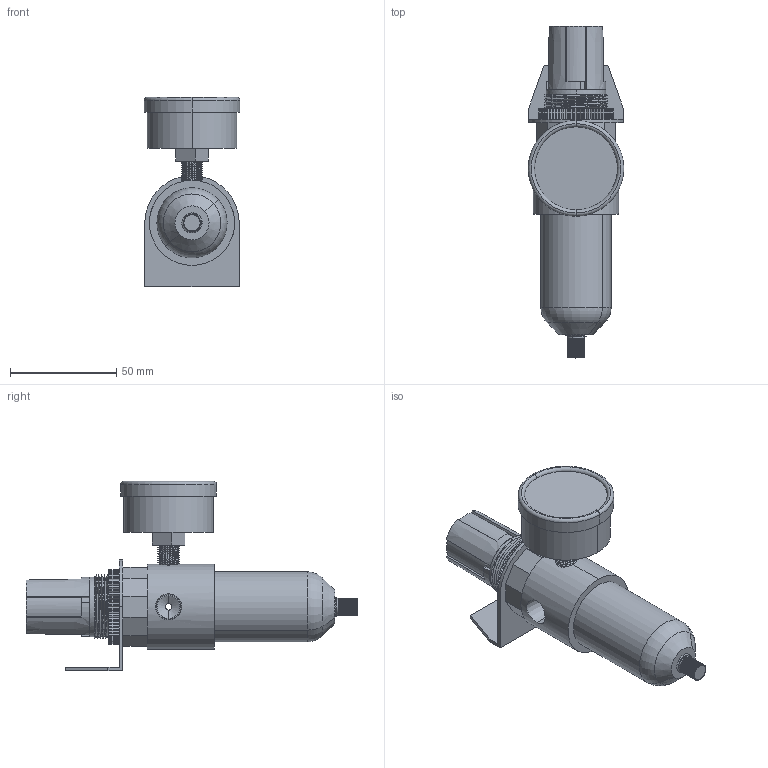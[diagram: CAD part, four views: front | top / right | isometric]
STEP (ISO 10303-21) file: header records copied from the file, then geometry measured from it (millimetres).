
FILE_DESCRIPTION (( 'STEP AP203' ), '1' );
FILE_NAME ('B549-02#YGB.STEP', '2016-01-14T18:27:09', ( '' ), ( '' ), 'SwSTEP 2.0', 'SolidWorks 2014', '' );
FILE_SCHEMA (( 'CONFIG_CONTROL_DESIGN' ));
Length unit declared in the file: millimetre
Products named in the file (13): R364-2; KA161X57; F504-02-Y-有壓力孔; F504-1-有壓力孔; F504-3; 40-P-AD=1-8PT-2; B549-02#YGB; 40-P-AD=1-8PT-1; R364-5; R364-3; R364-4; 40-P-AD=1-8PT.SLDPRT; F504-2
Assembly tree (12 placements, depth 3):
  B549-02#YGB
    R364-5
    R364-4
    R364-3
    R364-2
    40-P-AD=1-8PT.SLDPRT
      40-P-AD=1-8PT-1
      40-P-AD=1-8PT-2
    KA161X57
    F504-02-Y-有壓力孔
      F504-2
      F504-3
      F504-1-有壓力孔
Bounding box: 45 x 156 x 89 mm (x, y, z)
Volume: 160015.5 mm3; surface area: 41907.3 mm2
Topology: 10 solids, 10 shells, 549 faces, 1534 edges, 1010 vertices
Faces by surface type: plane 353, cylinder 161, cone 19, bspline 10, torus 6
Entity records: 23063 total; most frequent: CARTESIAN_POINT 7721, ORIENTED_EDGE 3064, DIRECTION 2822, EDGE_CURVE 1532, VECTOR 1016, LINE 1016, VERTEX_POINT 1010, AXIS2_PLACEMENT_3D 903
